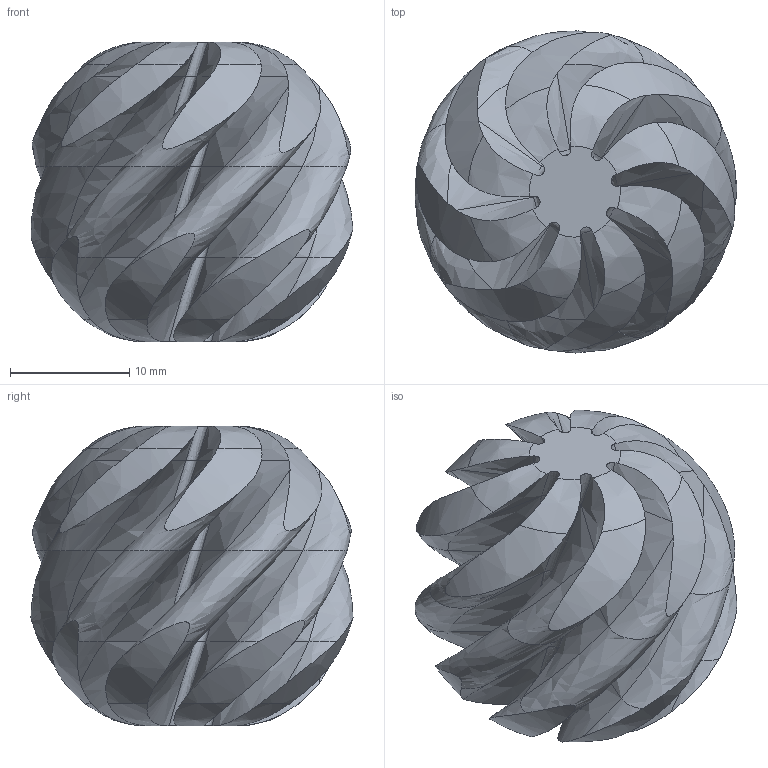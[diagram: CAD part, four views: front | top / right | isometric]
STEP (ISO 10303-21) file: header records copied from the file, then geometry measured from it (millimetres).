
FILE_DESCRIPTION(/* description */ (''),/* implementation_level */ '2;1');
FILE_NAME(/* name */ 'Impossible Twists Larger Clearance interan lsphere.step',/* time_stamp */ '2024-07-17T13:58:13-06:00',/* author */ (''),/* organization */ (''),/* preprocessor_version */ 'ST-DEVELOPER v20',/* originating_system */ 'Autodesk Translation Framework v13.14.0.145',/* authorisation */ '');
FILE_SCHEMA (('AUTOMOTIVE_DESIGN { 1 0 10303 214 3 1 1 }'));
Length unit declared in the file: millimetre
Products named in the file (2): Impossible Twists Larger Clearance; Sphere Internal
Assembly tree (1 placements, depth 2):
  Impossible Twists Larger Clearance
    Sphere Internal
Bounding box: 26.98 x 27 x 25.15 mm (x, y, z)
Volume: 6567 mm3; surface area: 5423.4 mm2
Topology: 1 solids, 1 shells, 162 faces, 400 edges, 240 vertices
Faces by surface type: bspline 160, plane 2
Entity records: 8928 total; most frequent: CARTESIAN_POINT 6312, ORIENTED_EDGE 800, EDGE_CURVE 400, B_SPLINE_CURVE_WITH_KNOTS 368, VERTEX_POINT 240, FACE_OUTER_BOUND 162, EDGE_LOOP 162, ADVANCED_FACE 162
